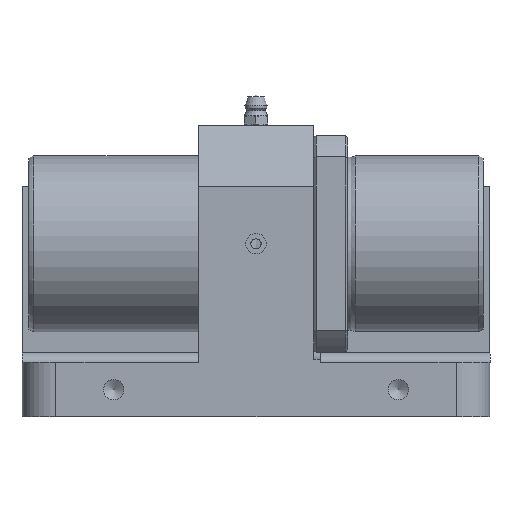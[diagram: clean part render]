
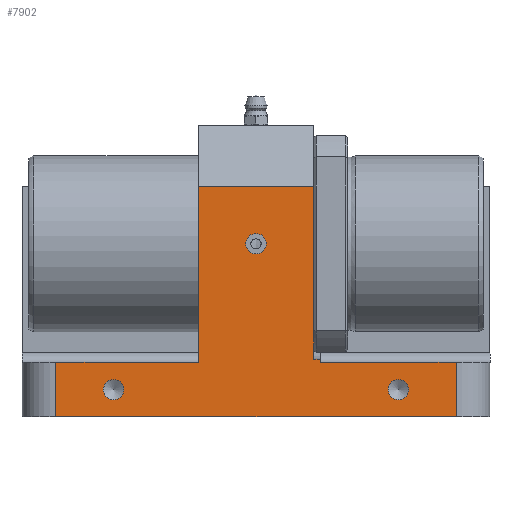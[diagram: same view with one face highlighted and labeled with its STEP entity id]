
A CAD part, front view. The second image highlights one B-rep face of the part: STEP entity #7902.
In plain terms, the highlighted planar face has unit normal (0, -1, 0).
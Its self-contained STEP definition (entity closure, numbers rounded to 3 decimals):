
#7756=CARTESIAN_POINT('',(128.0,-100.0,16.));
#7757=VERTEX_POINT('',#7756);
#7765=CARTESIAN_POINT('',(128.0,-100.0,0.0));
#7766=VERTEX_POINT('',#7765);
#7767=CARTESIAN_POINT('',(128.0,-100.0,16.));
#7768=DIRECTION('',(0.0,0.0,-1.0));
#7769=VECTOR('',#7768,16.);
#7770=LINE('',#7767,#7769);
#7771=EDGE_CURVE('',#7757,#7766,#7770,.T.);
#7791=CARTESIAN_POINT('',(138.0,-100.0,0.0));
#7792=DIRECTION('',(0.0,-1.0,0.0));
#7793=DIRECTION('',(0.0,0.0,-1.0));
#7794=AXIS2_PLACEMENT_3D('',#7791,#7792,#7793);
#7795=PLANE('',#7794);
#7796=ORIENTED_EDGE('',*,*,#7771,.F.);
#7797=CARTESIAN_POINT('',(88.,-100.0,16.));
#7798=VERTEX_POINT('',#7797);
#7799=CARTESIAN_POINT('',(128.0,-100.0,16.));
#7800=DIRECTION('',(-1.0,0.0,0.0));
#7801=VECTOR('',#7800,40.);
#7802=LINE('',#7799,#7801);
#7803=EDGE_CURVE('',#7757,#7798,#7802,.T.);
#7804=ORIENTED_EDGE('',*,*,#7803,.T.);
#7805=CARTESIAN_POINT('',(88.,-100.0,17.));
#7806=VERTEX_POINT('',#7805);
#7807=CARTESIAN_POINT('',(88.,-100.0,16.));
#7808=DIRECTION('',(0.0,0.0,1.0));
#7809=VECTOR('',#7808,1.);
#7810=LINE('',#7807,#7809);
#7811=EDGE_CURVE('',#7798,#7806,#7810,.T.);
#7812=ORIENTED_EDGE('',*,*,#7811,.T.);
#7813=CARTESIAN_POINT('',(86.,-100.0,17.));
#7814=VERTEX_POINT('',#7813);
#7815=CARTESIAN_POINT('',(86.,-100.0,17.));
#7816=DIRECTION('',(1.0,0.0,0.0));
#7817=VECTOR('',#7816,2.);
#7818=LINE('',#7815,#7817);
#7819=EDGE_CURVE('',#7814,#7806,#7818,.T.);
#7820=ORIENTED_EDGE('',*,*,#7819,.F.);
#7821=CARTESIAN_POINT('',(86.,-100.0,68.0));
#7822=VERTEX_POINT('',#7821);
#7823=CARTESIAN_POINT('',(86.,-100.0,17.));
#7824=DIRECTION('',(0.0,0.0,1.0));
#7825=VECTOR('',#7824,51.);
#7826=LINE('',#7823,#7825);
#7827=EDGE_CURVE('',#7814,#7822,#7826,.T.);
#7828=ORIENTED_EDGE('',*,*,#7827,.T.);
#7829=CARTESIAN_POINT('',(52.,-100.0,68.0));
#7830=VERTEX_POINT('',#7829);
#7831=CARTESIAN_POINT('',(52.,-100.0,68.0));
#7832=DIRECTION('',(1.0,0.0,0.0));
#7833=VECTOR('',#7832,34.);
#7834=LINE('',#7831,#7833);
#7835=EDGE_CURVE('',#7830,#7822,#7834,.T.);
#7836=ORIENTED_EDGE('',*,*,#7835,.F.);
#7837=CARTESIAN_POINT('',(52.,-100.0,16.));
#7838=VERTEX_POINT('',#7837);
#7839=CARTESIAN_POINT('',(52.,-100.0,68.0));
#7840=DIRECTION('',(0.0,0.0,-1.0));
#7841=VECTOR('',#7840,52.);
#7842=LINE('',#7839,#7841);
#7843=EDGE_CURVE('',#7830,#7838,#7842,.T.);
#7844=ORIENTED_EDGE('',*,*,#7843,.T.);
#7845=CARTESIAN_POINT('',(10.0,-100.0,16.));
#7846=VERTEX_POINT('',#7845);
#7847=CARTESIAN_POINT('',(52.,-100.0,16.));
#7848=DIRECTION('',(-1.0,0.0,0.0));
#7849=VECTOR('',#7848,42.);
#7850=LINE('',#7847,#7849);
#7851=EDGE_CURVE('',#7838,#7846,#7850,.T.);
#7852=ORIENTED_EDGE('',*,*,#7851,.T.);
#7853=CARTESIAN_POINT('',(10.0,-100.0,0.0));
#7854=VERTEX_POINT('',#7853);
#7855=CARTESIAN_POINT('',(10.0,-100.0,0.0));
#7856=DIRECTION('',(0.0,0.0,1.0));
#7857=VECTOR('',#7856,16.);
#7858=LINE('',#7855,#7857);
#7859=EDGE_CURVE('',#7854,#7846,#7858,.T.);
#7860=ORIENTED_EDGE('',*,*,#7859,.F.);
#7861=CARTESIAN_POINT('',(10.0,-100.0,0.0));
#7862=DIRECTION('',(1.0,0.0,0.0));
#7863=VECTOR('',#7862,118.0);
#7864=LINE('',#7861,#7863);
#7865=EDGE_CURVE('',#7854,#7766,#7864,.T.);
#7866=ORIENTED_EDGE('',*,*,#7865,.T.);
#7867=EDGE_LOOP('',(#7796,#7804,#7812,#7820,#7828,#7836,#7844,#7852,#7860,#7866));
#7868=FACE_OUTER_BOUND('',#7867,.T.);
#7869=CARTESIAN_POINT('',(114.,-100.0,8.));
#7870=VERTEX_POINT('',#7869);
#7871=CARTESIAN_POINT('',(111.,-100.0,8.));
#7872=DIRECTION('',(0.0,1.0,0.0));
#7873=DIRECTION('',(1.0,0.0,0.0));
#7874=AXIS2_PLACEMENT_3D('',#7871,#7872,#7873);
#7875=CIRCLE('',#7874,3.);
#7876=EDGE_CURVE('',#7870,#7870,#7875,.T.);
#7877=ORIENTED_EDGE('',*,*,#7876,.T.);
#7878=EDGE_LOOP('',(#7877));
#7879=FACE_BOUND('',#7878,.T.);
#7880=CARTESIAN_POINT('',(30.,-100.0,8.));
#7881=VERTEX_POINT('',#7880);
#7882=CARTESIAN_POINT('',(27.,-100.0,8.));
#7883=DIRECTION('',(0.0,1.0,0.0));
#7884=DIRECTION('',(1.0,0.0,0.0));
#7885=AXIS2_PLACEMENT_3D('',#7882,#7883,#7884);
#7886=CIRCLE('',#7885,3.);
#7887=EDGE_CURVE('',#7881,#7881,#7886,.T.);
#7888=ORIENTED_EDGE('',*,*,#7887,.T.);
#7889=EDGE_LOOP('',(#7888));
#7890=FACE_BOUND('',#7889,.T.);
#7891=CARTESIAN_POINT('',(72.0,-100.0,51.));
#7892=VERTEX_POINT('',#7891);
#7893=CARTESIAN_POINT('',(69.0,-100.0,51.));
#7894=DIRECTION('',(0.0,1.0,0.0));
#7895=DIRECTION('',(1.0,0.0,0.0));
#7896=AXIS2_PLACEMENT_3D('',#7893,#7894,#7895);
#7897=CIRCLE('',#7896,3.);
#7898=EDGE_CURVE('',#7892,#7892,#7897,.T.);
#7899=ORIENTED_EDGE('',*,*,#7898,.T.);
#7900=EDGE_LOOP('',(#7899));
#7901=FACE_BOUND('',#7900,.T.);
#7902=ADVANCED_FACE('',(#7868,#7879,#7890,#7901),#7795,.T.);
